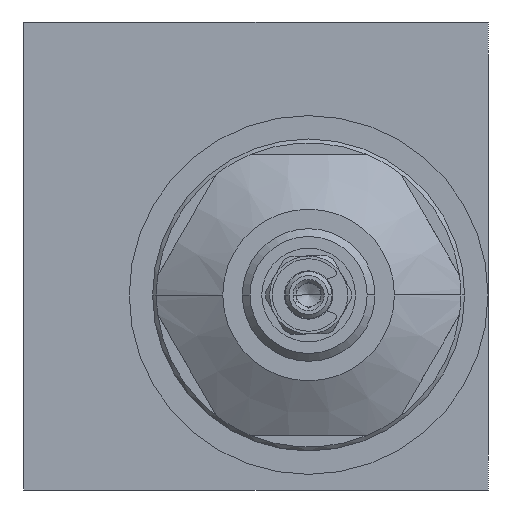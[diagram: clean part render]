
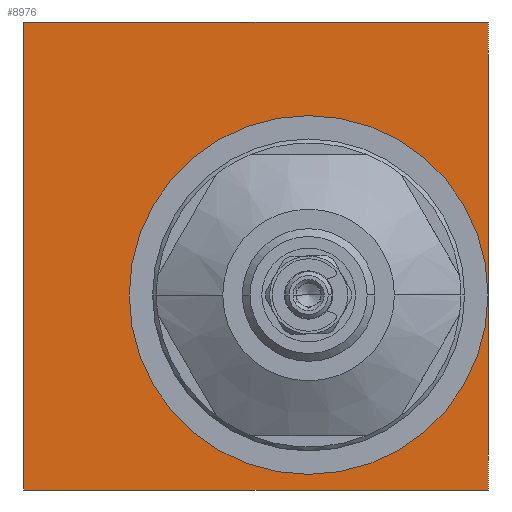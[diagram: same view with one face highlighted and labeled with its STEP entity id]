
A CAD part, left-side view. The second image highlights one B-rep face of the part: STEP entity #8976.
In plain terms, the highlighted planar face has unit normal (-1, 0, 0).
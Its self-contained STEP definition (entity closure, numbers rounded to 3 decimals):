
#98 = VERTEX_POINT ( 'NONE', #10550 ) ;
#100 = VERTEX_POINT ( 'NONE', #10568 ) ;
#502 = LINE ( 'NONE', #5713, #12431 ) ;
#528 = AXIS2_PLACEMENT_3D ( 'NONE', #10823, #10887, #11017 ) ;
#679 = LINE ( 'NONE', #8660, #13682 ) ;
#859 = CARTESIAN_POINT ( 'NONE',  ( 0., -29.75, 30. ) ) ;
#1217 = FACE_OUTER_BOUND ( 'NONE', #3545, .T. ) ;
#1588 = DIRECTION ( 'NONE',  ( 0., 0., 1. ) ) ;
#1615 = DIRECTION ( 'NONE',  ( -1., 0., 0. ) ) ;
#1630 = CARTESIAN_POINT ( 'NONE',  ( 0., 29.75, -30. ) ) ;
#1812 = PLANE ( 'NONE',  #13548 ) ;
#1850 = CARTESIAN_POINT ( 'NONE',  ( 0., -6.745, -28. ) ) ;
#2432 = FACE_BOUND ( 'NONE', #6118, .T. ) ;
#3545 = EDGE_LOOP ( 'NONE', ( #12152, #5588, #13624, #12367 ) ) ;
#4402 = CARTESIAN_POINT ( 'NONE',  ( 0., 29.75, -30. ) ) ;
#4958 = VERTEX_POINT ( 'NONE', #859 ) ;
#5588 = ORIENTED_EDGE ( 'NONE', *, *, #6546, .F. ) ;
#5713 = CARTESIAN_POINT ( 'NONE',  ( 0., -29.75, -30. ) ) ;
#5874 = DIRECTION ( 'NONE',  ( 0., 1., 0. ) ) ;
#6118 = EDGE_LOOP ( 'NONE', ( #12381, #12629 ) ) ;
#6542 = EDGE_CURVE ( 'NONE', #100, #11705, #502, .T. ) ;
#6546 = EDGE_CURVE ( 'NONE', #4958, #100, #679, .T. ) ;
#6566 = EDGE_CURVE ( 'NONE', #7650, #4958, #12134, .T. ) ;
#6568 = EDGE_CURVE ( 'NONE', #11705, #7650, #12147, .T. ) ;
#6572 = EDGE_CURVE ( 'NONE', #98, #11963, #13836, .T. ) ;
#7650 = VERTEX_POINT ( 'NONE', #12421 ) ;
#8586 = DIRECTION ( 'NONE',  ( 0., 0., 1. ) ) ;
#8660 = CARTESIAN_POINT ( 'NONE',  ( 0., -29.75, 30. ) ) ;
#8703 = DIRECTION ( 'NONE',  ( 0., 0., -1. ) ) ;
#8976 = ADVANCED_FACE ( 'NONE', ( #1217, #2432 ), #1812, .T. ) ;
#9230 = EDGE_CURVE ( 'NONE', #11963, #98, #11809, .T. ) ;
#9836 = CARTESIAN_POINT ( 'NONE',  ( 0., 29.75, 30. ) ) ;
#10024 = CARTESIAN_POINT ( 'NONE',  ( 0., -29.75, 30. ) ) ;
#10098 = DIRECTION ( 'NONE',  ( 0., -1., 0. ) ) ;
#10550 = CARTESIAN_POINT ( 'NONE',  ( 0., -6.745, 18. ) ) ;
#10568 = CARTESIAN_POINT ( 'NONE',  ( 0., -29.75, -30. ) ) ;
#10823 = CARTESIAN_POINT ( 'NONE',  ( 0., -6.745, -5. ) ) ;
#10887 = DIRECTION ( 'NONE',  ( -1., 0., 0. ) ) ;
#11017 = DIRECTION ( 'NONE',  ( 0., 0., 1. ) ) ;
#11705 = VERTEX_POINT ( 'NONE', #4402 ) ;
#11809 = CIRCLE ( 'NONE', #12718, 23. ) ;
#11963 = VERTEX_POINT ( 'NONE', #1850 ) ;
#11973 = VECTOR ( 'NONE', #8586, 1000. ) ;
#12134 = LINE ( 'NONE', #10024, #13488 ) ;
#12147 = LINE ( 'NONE', #9836, #11973 ) ;
#12152 = ORIENTED_EDGE ( 'NONE', *, *, #6542, .F. ) ;
#12337 = DIRECTION ( 'NONE',  ( 0., 0., 1. ) ) ;
#12340 = DIRECTION ( 'NONE',  ( -1., 0., 0. ) ) ;
#12347 = CARTESIAN_POINT ( 'NONE',  ( 0., -6.745, -5. ) ) ;
#12367 = ORIENTED_EDGE ( 'NONE', *, *, #6568, .F. ) ;
#12381 = ORIENTED_EDGE ( 'NONE', *, *, #6572, .F. ) ;
#12421 = CARTESIAN_POINT ( 'NONE',  ( 0., 29.75, 30. ) ) ;
#12431 = VECTOR ( 'NONE', #5874, 1000. ) ;
#12629 = ORIENTED_EDGE ( 'NONE', *, *, #9230, .F. ) ;
#12718 = AXIS2_PLACEMENT_3D ( 'NONE', #12347, #12340, #12337 ) ;
#13488 = VECTOR ( 'NONE', #10098, 1000. ) ;
#13548 = AXIS2_PLACEMENT_3D ( 'NONE', #1630, #1615, #1588 ) ;
#13624 = ORIENTED_EDGE ( 'NONE', *, *, #6566, .F. ) ;
#13682 = VECTOR ( 'NONE', #8703, 1000. ) ;
#13836 = CIRCLE ( 'NONE', #528, 23. ) ;
